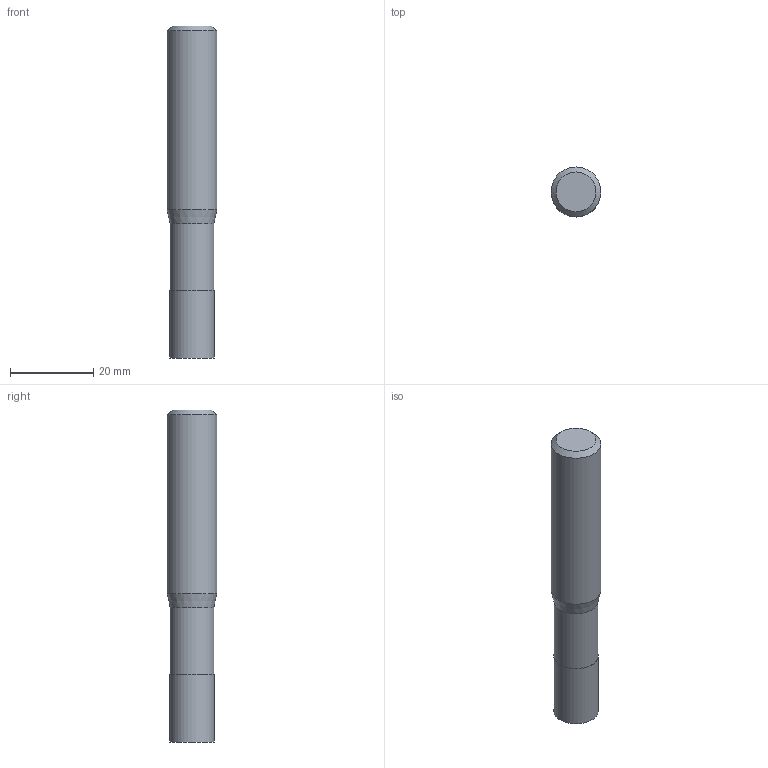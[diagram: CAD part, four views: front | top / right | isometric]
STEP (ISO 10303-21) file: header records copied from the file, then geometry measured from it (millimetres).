
FILE_DESCRIPTION((''),'2;1');
FILE_NAME('C:\Users\nsx150\AppData\Local\Temp\Mastercam 2021\EUJSUNXURU\TEMP.step','2021-04-22T10:30:10',(''),(''),'STEP Write','Mastercam 2021 ... CNC Software, Inc.','');
FILE_SCHEMA(('AUTOMOTIVE_DESIGN'));
Length unit declared in the file: millimetre
Products named in the file (1): None
Bounding box: 12 x 12 x 80 mm (x, y, z)
Volume: 8230 mm3; surface area: 3235.2 mm2
Topology: 2 solids, 2 shells, 9 faces, 12 edges, 7 vertices
Faces by surface type: plane 4, cylinder 3, cone 2
Full cylindrical faces by diameter (mm): 10.6 x1, 10.8 x1, 12 x1
Entity records: 211 total; most frequent: DIRECTION 36, CARTESIAN_POINT 25, AXIS2_PLACEMENT_3D 18, ORIENTED_EDGE 14, EDGE_LOOP 14, STYLED_ITEM 12, ADVANCED_FACE 9, FACE_BOUND 8
